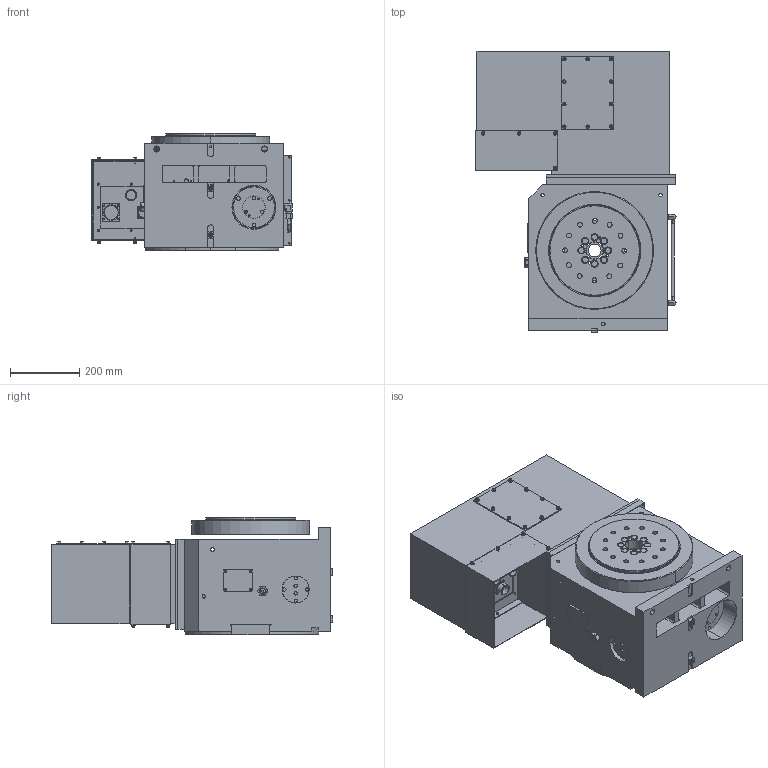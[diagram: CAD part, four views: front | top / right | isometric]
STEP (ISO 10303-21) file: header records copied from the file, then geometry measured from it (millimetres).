
FILE_DESCRIPTION (( 'STEP AP203' ), '1' );
FILE_NAME ('1512344 MDVI346-01.STEP', '2020-12-05T05:30:11', ( '' ), ( '' ), 'SwSTEP 2.0', 'SolidWorks 2019', '' );
FILE_SCHEMA (( 'CONFIG_CONTROL_DESIGN' ));
Length unit declared in the file: millimetre
Products named in the file (1): 1512344 MDVI346-01
Bounding box: 577.12 x 812 x 338 mm (x, y, z)
Surface area: 2203996 mm2 (no closed solid volume)
Topology: 0 solids, 101 shells, 695 faces, 2345 edges, 1735 vertices
Faces by surface type: cylinder 334, plane 248, cone 93, torus 20
Entity records: 26321 total; most frequent: DIRECTION 4931, CARTESIAN_POINT 4839, ORIENTED_EDGE 3547, EDGE_CURVE 2345, AXIS2_PLACEMENT_3D 1911, VERTEX_POINT 1735, CIRCLE 1215, VECTOR 1109
